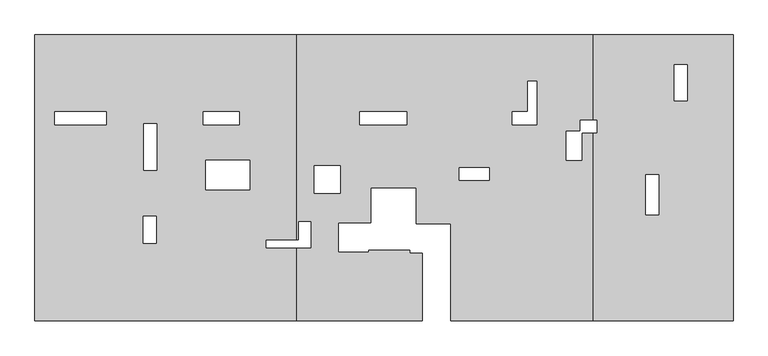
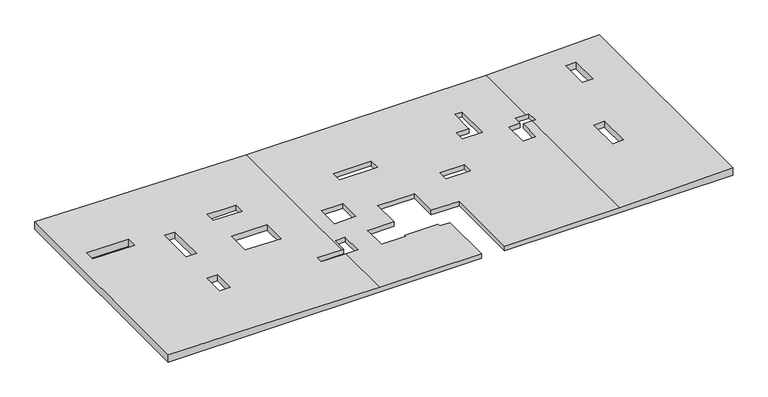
"""IFC4 building model written with IfcOpenShell, lengths in millimetres: proxy geometry, GM-Rf-S043 : GM-Rf-S04-3."""

from ifc_helpers import new_model, si_unit, origin, place, context, project, spatial, faceted_brep, source, transform, mapped, element, save


def generic_models_a11b3ff2(model_context):
    return source(origin(), model_context, "Body", "Brep", [
        faceted_brep([(129180.0000001, 111599.9999987, 28860.0), (129180.0000001, 111599.9999987, 28410.0), (146930.0000001, 111599.9999987, 28410.0), (146930.0000001, 111599.9999987, 28680.0), (141180.0000001, 111599.9999987, 28680.0), (134020.0000001, 111599.9999987, 28787.4), (161180.0000001, 111599.9999987, 28410.0), (161180.0000001, 111599.9999987, 28860.0), (154780.0000001, 111599.9999987, 28680.0), (148250.0000001, 111599.9999987, 28680.0), (148250.0000001, 111599.9999987, 28410.0), (129180.0000001, 124699.9999987, 28860.0), (133134.5454547, 124699.9999987, 28800.6818182), (134020.0000001, 124699.9999987, 28787.4), (141180.0000001, 124699.9999987, 28680.0), (154780.0000001, 124699.9999987, 28680.0), (159070.9090911, 124699.9999987, 28800.6818182), (161180.0000001, 124699.9999987, 28860.0), (161180.0000001, 124699.9999987, 28859.578125), (161180.0000001, 124699.9999987, 28800.6818182), (161180.0000001, 124699.9999987, 28410.0), (134020.0000001, 124699.9999987, 28410.0), (129180.0000001, 124699.9999987, 28410.0), (148250.0000001, 116039.9999173, 28410.0), (146830.0000001, 116039.9999173, 28410.0), (146650.0000002, 116039.9999173, 28410.0), (146650.0000002, 117699.9999987, 28410.0), (144580.0000002, 117699.9999987, 28410.0), (144580.0000002, 116099.9999987, 28410.0), (143080.0000002, 116099.9999987, 28410.0), (143080.0000002, 114749.9999987, 28410.0), (144480.0000001, 114749.9999987, 28410.0), (144480.0000001, 114829.9999987, 28410.0), (146350.0001087, 114829.9999987, 28410.0), (146350.0001087, 114689.9999173, 28410.0), (146930.0000001, 114689.9999173, 28410.0), (132447.5000001, 121169.9999987, 28410.0), (130085.0000001, 121169.9999987, 28410.0), (130085.0000001, 120579.9999987, 28410.0), (132447.5000001, 120579.9999987, 28410.0), (134760.0000001, 120619.9999987, 28410.0), (134170.0000001, 120619.9999987, 28410.0), (134170.0000001, 118499.9999987, 28410.0), (134760.0000001, 118499.9999987, 28410.0), (134745.0000001, 116394.9999987, 28410.0), (134155.0000001, 116394.9999987, 28410.0), (134155.0000001, 115154.9999987, 28410.0), (134745.0000001, 115154.9999987, 28410.0), (139035.0000001, 118949.9999987, 28410.0), (137010.0000001, 118949.9999987, 28410.0), (137010.0000001, 117599.9998955, 28410.0), (139035.0000001, 117599.9998955, 28410.0), (138550.0000001, 121169.9999987, 28410.0), (136905.0000001, 121169.9999987, 28410.0), (136905.0000001, 120579.9999987, 28410.0), (138550.0000001, 120579.9999987, 28410.0), (146215.0000001, 121169.9999987, 28410.0), (144075.0000001, 121169.9999987, 28410.0), (144075.0000001, 120579.9999987, 28410.0), (146215.0000001, 120579.9999987, 28410.0), (139765.0000001, 114914.9999987, 28410.0), (141850.0000001, 114914.9999987, 28410.0), (141850.0000001, 116164.9999987, 28410.0), (141260.0000001, 116164.9999987, 28410.0), (141260.0000001, 115319.9999987, 28410.0), (139765.0000001, 115319.9999987, 28410.0), (143180.0000002, 118699.9999987, 28410.0), (141980.0000524, 118699.9999987, 28410.0), (141980.0000524, 117449.9999987, 28410.0), (143180.0000002, 117449.9999987, 28410.0), (150015.0000001, 118619.9999987, 28410.0), (148640.0000001, 118619.9999987, 28410.0), (148640.0000001, 118029.9999987, 28410.0), (150015.0000001, 118029.9999987, 28410.0), (157777.0000001, 118289.9999987, 28410.0), (157187.0000001, 118289.9999987, 28410.0), (157187.0000001, 116449.9999987, 28410.0), (157777.0000001, 116449.9999987, 28410.0), (158485.0000001, 121684.9999987, 28410.0), (159075.0000001, 121684.9999987, 28410.0), (159075.0000001, 123324.9999987, 28410.0), (158485.0000001, 123324.9999987, 28410.0), (151050.0000001, 120579.9999987, 28410.0), (152170.0000001, 120579.9999987, 28410.0), (152170.0000001, 122569.9999987, 28410.0), (151765.0000001, 122569.9999987, 28410.0), (151765.0000001, 121169.9999987, 28410.0), (151050.0000001, 121169.9999987, 28410.0), (154150.0000001, 120819.9999987, 28410.0), (154150.0000001, 120309.9999987, 28410.0), (153510.0000001, 120309.9999987, 28410.0), (153510.0000001, 118929.9999987, 28410.0), (154270.0000001, 118929.9999987, 28410.0), (154270.0000001, 120189.9999987, 28410.0), (154950.0000001, 120189.9999987, 28410.0), (154950.0000001, 120819.9999987, 28410.0), (154780.0000001, 120819.9999987, 28680.0), (154950.0000001, 120819.9999987, 28684.78125), (154950.0000001, 120189.9999987, 28684.78125), (154780.0000001, 120189.9999987, 28680.0), (154780.0000001, 118799.9999987, 28680.0), (159075.0000001, 121684.9999987, 28800.796875), (158485.0000001, 121684.9999987, 28784.203125), (158485.0000001, 123324.9999987, 28784.203125), (159075.0000001, 123324.9999987, 28800.796875), (157187.0000001, 118289.9999987, 28747.696875), (157777.0000001, 118289.9999987, 28764.290625), (157777.0000001, 116449.9999987, 28764.290625), (157187.0000001, 116449.9999987, 28747.696875), (141180.0000001, 118799.9999987, 28680.0), (141180.0000001, 115319.9999987, 28680.0), (141260.0000001, 115319.9999987, 28680.0), (141260.0000001, 116164.9999987, 28680.0), (141850.0000001, 116164.9999987, 28680.0), (141850.0000001, 114914.9999987, 28680.0), (141180.0000001, 114914.9999987, 28680.0), (146930.0000001, 114689.9999173, 28680.0), (146350.0001087, 114689.9999173, 28680.0), (146350.0001087, 114829.9999987, 28680.0), (144480.0000001, 114829.9999987, 28680.0), (144480.0000001, 114749.9999987, 28680.0), (143080.0000002, 114749.9999987, 28680.0), (143080.0000002, 116099.9999987, 28680.0), (144580.0000002, 116099.9999987, 28680.0), (144580.0000002, 117699.9999987, 28680.0), (146650.0000002, 117699.9999987, 28680.0), (146650.0000002, 116039.9999173, 28680.0), (148250.0000001, 116039.9999173, 28680.0), (154270.0000001, 120189.9999987, 28680.0), (154270.0000001, 118929.9999987, 28680.0), (153510.0000001, 118929.9999987, 28680.0), (153510.0000001, 120309.9999987, 28680.0), (154150.0000001, 120309.9999987, 28680.0), (154150.0000001, 120819.9999987, 28680.0), (144075.0000001, 121169.9999987, 28680.0), (146215.0000001, 121169.9999987, 28680.0), (146215.0000001, 120579.9999987, 28680.0), (144075.0000001, 120579.9999987, 28680.0), (141980.0000524, 118699.9999987, 28680.0), (143180.0000002, 118699.9999987, 28680.0), (143180.0000002, 117449.9999987, 28680.0), (141980.0000524, 117449.9999987, 28680.0), (148640.0000001, 118619.9999987, 28680.0), (150015.0000001, 118619.9999987, 28680.0), (150015.0000001, 118029.9999987, 28680.0), (148640.0000001, 118029.9999987, 28680.0), (152170.0000001, 120579.9999987, 28680.0), (151050.0000001, 120579.9999987, 28680.0), (151050.0000001, 121169.9999987, 28680.0), (151765.0000001, 121169.9999987, 28680.0), (151765.0000001, 122569.9999987, 28680.0), (152170.0000001, 122569.9999987, 28680.0), (139765.0000001, 114914.9999987, 28701.225), (139765.0000001, 115319.9999987, 28701.225), (137010.0000001, 118949.9999987, 28742.55), (139035.0000001, 118949.9999987, 28712.175), (139035.0000001, 117599.9998955, 28712.175), (137010.0000001, 117599.9998955, 28742.55), (136905.0000001, 121169.9999987, 28744.125), (137948.1818183, 121169.9999987, 28728.4772727), (138550.0000001, 121169.9999987, 28719.45), (138550.0000001, 120728.6666654, 28719.45), (138550.0000001, 120579.9999987, 28719.45), (136905.0000001, 120579.9999987, 28744.125), (134170.0000001, 120619.9999987, 28785.15), (134760.0000001, 120619.9999987, 28776.3), (134760.0000001, 118499.9999987, 28776.3), (134170.0000001, 118499.9999987, 28785.15), (134155.0000001, 116394.9999987, 28785.375), (134745.0000001, 116394.9999987, 28776.525), (134745.0000001, 115154.9999987, 28776.525), (134155.0000001, 115154.9999987, 28785.375), (130085.0000001, 121169.9999987, 28846.425), (132447.5000001, 121169.9999987, 28810.9875), (132447.5000001, 120579.9999987, 28810.9875), (130085.0000001, 120579.9999987, 28846.425)], [[[0, 1, 2, 3, 4, 5]], [[6, 7, 8, 9, 10]], [[11, 12, 13, 14, 15, 16, 17, 18, 19, 20, 21, 22]], [[1, 0, 11, 22]], [[22, 21, 20, 6, 10, 23, 24, 25, 26, 27, 28, 29, 30, 31, 32, 33, 34, 35, 2, 1], [36, 37, 38, 39], [40, 41, 42, 43], [44, 45, 46, 47], [48, 49, 50, 51], [52, 53, 54, 55], [56, 57, 58, 59], [60, 61, 62, 63, 64, 65], [66, 67, 68, 69], [70, 71, 72, 73], [74, 75, 76, 77], [78, 79, 80, 81], [82, 83, 84, 85, 86, 87], [88, 89, 90, 91, 92, 93, 94, 95]], [[7, 6, 20, 19, 18, 17]], [[8, 7, 17, 16, 15, 96, 97, 98, 99, 100], [101, 102, 103, 104], [105, 106, 107, 108]], [[15, 14, 109, 110, 111, 112, 113, 114, 115, 4, 3, 116, 117, 118, 119, 120, 121, 122, 123, 124, 125, 126, 127, 9, 8, 100, 99, 128, 129, 130, 131, 132, 133, 96], [134, 135, 136, 137], [138, 139, 140, 141], [142, 143, 144, 145], [146, 147, 148, 149, 150, 151]], [[0, 5, 4, 115, 152, 153, 110, 109, 14, 13, 12, 11], [154, 155, 156, 157], [158, 159, 160, 161, 162, 163], [164, 165, 166, 167], [168, 169, 170, 171], [172, 173, 174, 175]], [[36, 173, 172, 37]], [[37, 172, 175, 38]], [[38, 175, 174, 39]], [[173, 36, 39, 174]], [[40, 165, 164, 41]], [[41, 164, 167, 42]], [[42, 167, 166, 43]], [[165, 40, 43, 166]], [[44, 169, 168, 45]], [[45, 168, 171, 46]], [[46, 171, 170, 47]], [[169, 44, 47, 170]], [[48, 155, 154, 49]], [[49, 154, 157, 50]], [[50, 157, 156, 51]], [[155, 48, 51, 156]], [[52, 160, 159, 158, 53]], [[53, 158, 163, 54]], [[54, 163, 162, 55]], [[160, 52, 55, 162, 161]], [[56, 135, 134, 57]], [[57, 134, 137, 58]], [[58, 137, 136, 59]], [[135, 56, 59, 136]], [[60, 152, 115, 114, 61]], [[61, 114, 113, 62]], [[62, 113, 112, 63]], [[63, 112, 111, 64]], [[64, 111, 110, 153, 65]], [[152, 60, 65, 153]], [[66, 139, 138, 67]], [[67, 138, 141, 68]], [[68, 141, 140, 69]], [[139, 66, 69, 140]], [[70, 143, 142, 71]], [[71, 142, 145, 72]], [[72, 145, 144, 73]], [[143, 70, 73, 144]], [[74, 106, 105, 75]], [[75, 105, 108, 76]], [[76, 108, 107, 77]], [[106, 74, 77, 107]], [[78, 102, 101, 79]], [[79, 101, 104, 80]], [[80, 104, 103, 81]], [[102, 78, 81, 103]], [[82, 147, 146, 83]], [[83, 146, 151, 84]], [[84, 151, 150, 85]], [[85, 150, 149, 86]], [[86, 149, 148, 87]], [[147, 82, 87, 148]], [[88, 133, 132, 89]], [[89, 132, 131, 90]], [[90, 131, 130, 91]], [[91, 130, 129, 92]], [[92, 129, 128, 93]], [[93, 128, 99, 98, 94]], [[94, 98, 97, 95]], [[133, 88, 95, 97, 96]], [[23, 127, 126, 25, 24]], [[33, 118, 117, 34]], [[34, 117, 116, 35]], [[35, 116, 3, 2]], [[127, 23, 10, 9]], [[25, 126, 125, 26]], [[26, 125, 124, 27]], [[27, 124, 123, 28]], [[118, 33, 32, 119]], [[28, 123, 122, 29]], [[29, 122, 121, 30]], [[30, 121, 120, 31]], [[119, 32, 31, 120]]]),
    ])


if __name__ == "__main__":
    model = new_model("IFC4")
    model_context = context("Model", 3, world=origin())
    ifc_project = project(units=[si_unit("LENGTHUNIT", "METRE", prefix="MILLI")], contexts=[model_context])
    site = spatial("IfcSite", under=ifc_project)
    building = spatial("IfcBuilding", under=site)
    placement = place(None, origin())
    generic_models_shape = generic_models_a11b3ff2(model_context)
    element("IfcBuildingElementProxy", 1, Name="GM-Rf-S043 : GM-Rf-S04-3", ObjectType="GM-Rf-S043 : GM-Rf-S04-3", at=placement, inside=building, context=model_context, shape_type="MappedRepresentation", body=[
        mapped(generic_models_shape, transform((0.0, 0.0, 0.0), x_axis=(1.0, 0.0, 0.0), y_axis=(0.0, 1.0, 0.0), z_axis=(0.0, 0.0, 1.0))),
    ])
    save(model, "model.ifc")
